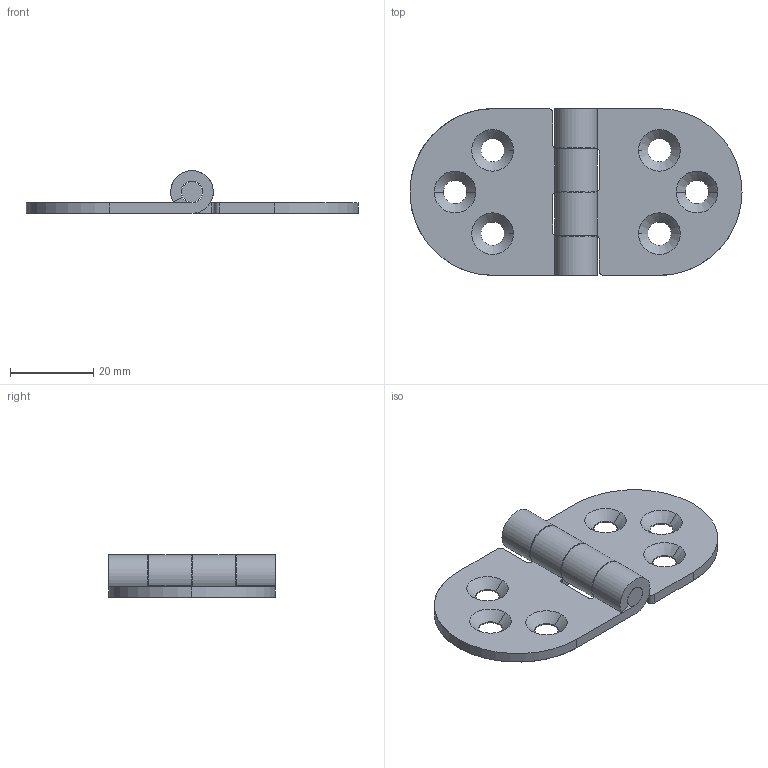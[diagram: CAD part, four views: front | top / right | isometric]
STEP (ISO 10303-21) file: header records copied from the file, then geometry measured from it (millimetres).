
FILE_DESCRIPTION(/* description */ (''),/* implementation_level */ '2;1');
FILE_NAME(/* name */ 'JL238-3',/* time_stamp */ '2024-09-18T11:58:32+08:00',/* author */ (''),/* organization */ (''),/* preprocessor_version */ 'ST-DEVELOPER v19.2',/* originating_system */ 'Rhino 8.5',/* authorisation */ '');
FILE_SCHEMA (('CONFIG_CONTROL_DESIGN'));
Length unit declared in the file: millimetre
Products named in the file (1): Document
Bounding box: 79.6 x 40 x 10.2 mm (x, y, z)
Surface area: 8504.2 mm2 (no closed solid volume)
Topology: 0 solids, 57 shells, 70 faces, 320 edges, 294 vertices
Faces by surface type: cylinder 32, plane 24, bspline 14
Entity records: 3800 total; most frequent: CARTESIAN_POINT 1398, ORIENTED_EDGE 346, DIRECTION 344, EDGE_CURVE 320, VERTEX_POINT 294, AXIS2_PLACEMENT_3D 200, CIRCLE 142, B_SPLINE_CURVE_WITH_KNOTS 140
